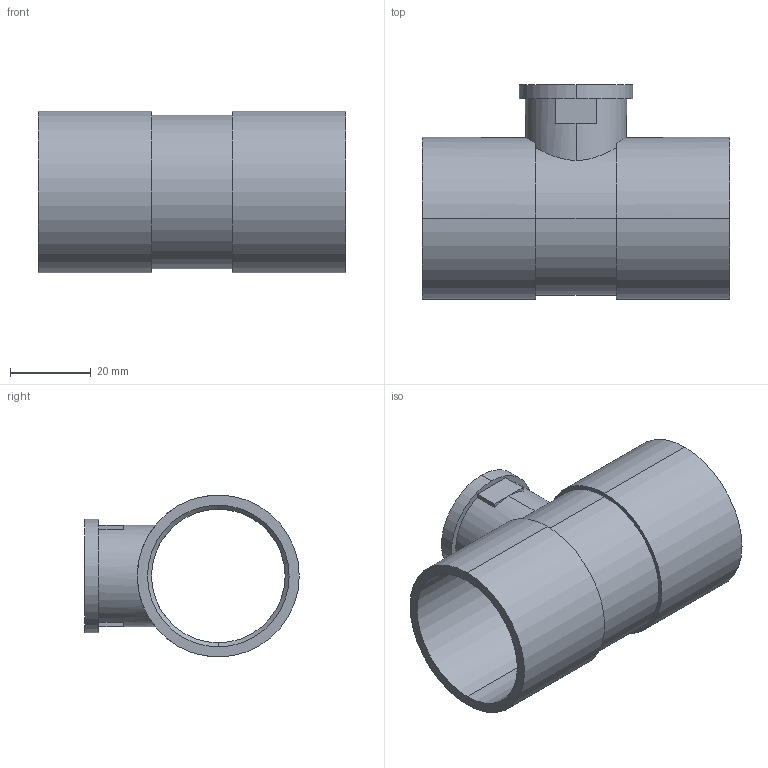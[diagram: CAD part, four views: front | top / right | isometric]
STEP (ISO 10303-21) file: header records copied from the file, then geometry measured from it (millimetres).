
FILE_DESCRIPTION (( 'STEP AP203' ), '1' );
FILE_NAME ('35x12.STEP', '2023-12-16T01:09:53', ( '' ), ( '' ), 'SwSTEP 2.0', 'SolidWorks 2018', '' );
FILE_SCHEMA (( 'CONFIG_CONTROL_DESIGN' ));
Length unit declared in the file: millimetre
Products named in the file (1): 35x12
Bounding box: 76 x 53 x 40 mm (x, y, z)
Volume: 25311.1 mm3; surface area: 21334.2 mm2
Topology: 1 solids, 1 shells, 66 faces, 177 edges, 114 vertices
Faces by surface type: cylinder 40, plane 18, cone 6, bspline 2
Entity records: 3332 total; most frequent: CARTESIAN_POINT 1733, ORIENTED_EDGE 354, DIRECTION 288, EDGE_CURVE 177, VERTEX_POINT 114, AXIS2_PLACEMENT_3D 106, LINE 76, VECTOR 76
